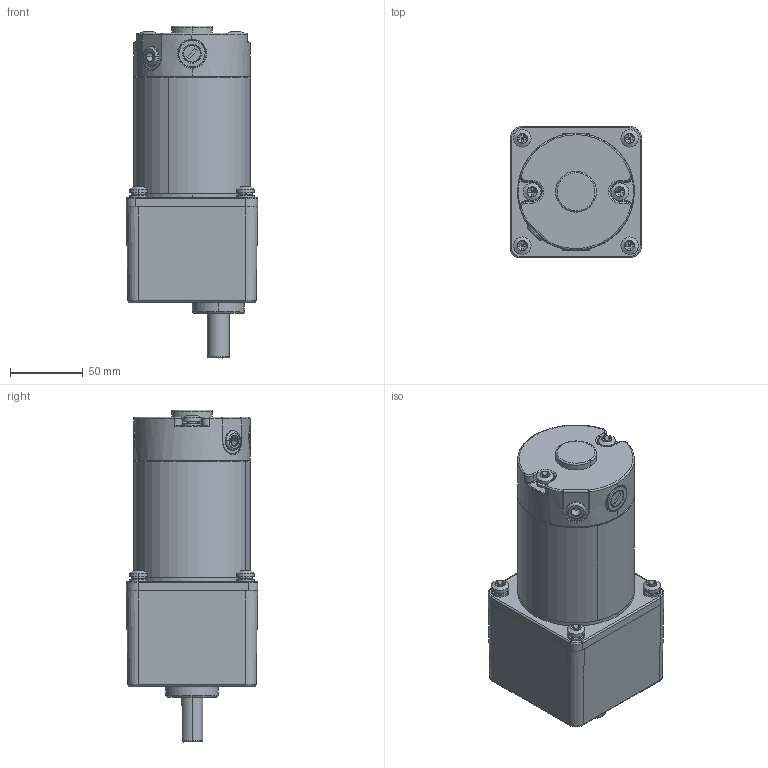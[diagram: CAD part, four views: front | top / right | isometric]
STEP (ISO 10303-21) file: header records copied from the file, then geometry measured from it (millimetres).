
FILE_DESCRIPTION (( 'STEP AP203' ), '1' );
FILE_NAME ('90饜5GU喘謫眊-80儂褲.STEP', '2021-07-12T09:34:55', ( '' ), ( '' ), 'SwSTEP 2.0', 'SolidWorks 2021', '' );
FILE_SCHEMA (( 'CONFIG_CONTROL_DESIGN' ));
Length unit declared in the file: millimetre
Products named in the file (8): LUDING_2; QIGAI_1; 90饜5GU喘謫眊-80儂褲; TANDIAN_2; HOUGAI-80-1_2; 90-3; JIKE-99; PENGDIAN_2
Assembly tree (22 placements, depth 2):
  90饜5GU喘謫眊-80儂褲
    JIKE-99
    QIGAI_1
    TANDIAN_2  x6
    PENGDIAN_2  x6
    LUDING_2  x6
    HOUGAI-80-1_2
    90-3
Bounding box: 90 x 90 x 227.5 mm (x, y, z)
Volume: 694581.6 mm3; surface area: 142923 mm2
Topology: 26 solids, 26 shells, 701 faces, 1651 edges, 1018 vertices
Faces by surface type: cylinder 230, cone 201, plane 180, bspline 76, torus 14
Entity records: 16566 total; most frequent: CARTESIAN_POINT 6616, DIRECTION 1859, ORIENTED_EDGE 1808, EDGE_CURVE 904, AXIS2_PLACEMENT_3D 755, VERTEX_POINT 563, EDGE_LOOP 435, CIRCLE 410
